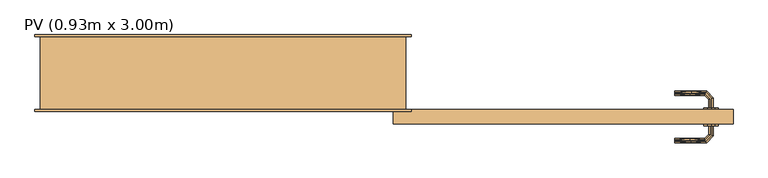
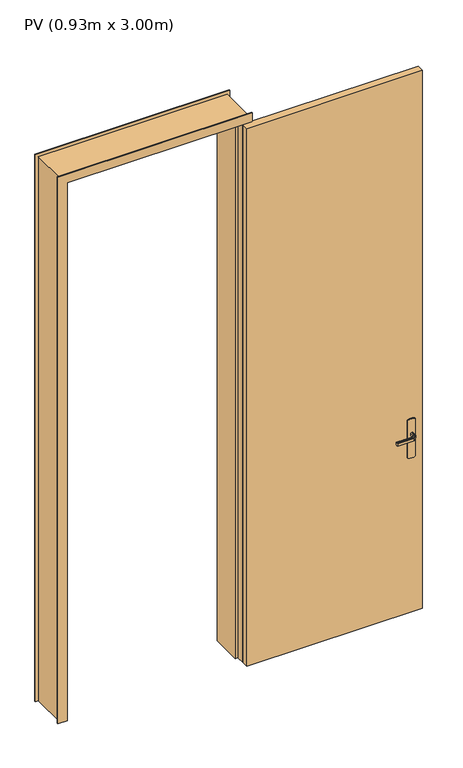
"""IFC4 building model written with IfcOpenShell, lengths in millimetres: door geometry, PV (0.93m x 3.00m)."""

import ifcopenshell
import ifcopenshell.guid

model = None  # the IFC model being written
_history = None  # IfcOwnerHistory: only IFC2X3 demands one
_inside = {}  # id of a spatial element -> (the spatial element, [elements in it])
_under = {}  # id of a project, library or spatial element -> (it, [spatial elements below it])
_declared = {}  # id of a project -> (the project, [libraries it declares])
_typed = {}  # id of a type object -> (the type object, [elements of that type])
_made_of = {}  # id of a material, layer set ... -> (it, [elements and type objects made of it])


def new_model(schema):
    """Start an empty IFC model of exactly this schema.

    Asked for "IFC4X3", IfcOpenShell would pick the latest addendum, in which some entities
    have other attributes; the version numbers below select the first issue.
    IFC2X3 requires an IfcOwnerHistory on every rooted entity: one is made here for all.
    """
    global model, _history
    if schema == "IFC4X3":
        model = ifcopenshell.file(schema_version=(4, 3, 0, 0))
    else:
        model = ifcopenshell.file(schema=schema)
    _inside.clear()
    _under.clear()
    _declared.clear()
    _typed.clear()
    _made_of.clear()
    _history = None
    if model.schema == "IFC2X3":
        org = make("IfcOrganization", Name="unknown")
        user = make(
            "IfcPersonAndOrganization",
            ThePerson=make("IfcPerson", FamilyName="unknown"),
            TheOrganization=org,
        )
        app = make(
            "IfcApplication",
            ApplicationDeveloper=org,
            Version="unknown",
            ApplicationFullName="unknown",
            ApplicationIdentifier="unknown",
        )
        _history = make(
            "IfcOwnerHistory",
            OwningUser=user,
            OwningApplication=app,
            ChangeAction="ADDED",
            CreationDate=0,
        )
    return model


def make(cls, **values):
    """One entity of the class cls with the attributes given. An attribute that is None is left unset."""
    return model.create_entity(
        cls, **{name: value for name, value in values.items() if value is not None}
    )


def rooted(cls, **values):
    """An entity with a GlobalId (a new one), such as an element, a storey or a relation."""
    return make(cls, GlobalId=ifcopenshell.guid.new(), OwnerHistory=_history, **values)


def si_unit(unit_type, name, prefix=None):
    """IfcSIUnit, for example si_unit("LENGTHUNIT", "METRE", prefix="MILLI")."""
    return make("IfcSIUnit", UnitType=unit_type, Prefix=prefix, Name=name)


def assignment(units):
    """IfcUnitAssignment: the units of a project."""
    return None if units is None else make("IfcUnitAssignment", Units=units)


def point(xyz):
    """IfcCartesianPoint."""
    return None if xyz is None else make("IfcCartesianPoint", Coordinates=xyz)


def direction(xyz):
    """IfcDirection."""
    return None if xyz is None else make("IfcDirection", DirectionRatios=xyz)


def frame(location, z_axis=None, x_axis=None):
    """IfcAxis2Placement3D, a coordinate frame: its origin and axes. An axis left out is left unset."""
    return make(
        "IfcAxis2Placement3D",
        Location=point(location),
        Axis=direction(z_axis),
        RefDirection=direction(x_axis),
    )


def origin():
    """The frame at (0, 0, 0) with its axes left unset."""
    return frame((0.0, 0.0, 0.0))


def origin_with_axes():
    """The frame at (0, 0, 0) with the z axis (0, 0, 1) and the x axis (1, 0, 0) written out."""
    return frame((0.0, 0.0, 0.0), z_axis=(0.0, 0.0, 1.0), x_axis=(1.0, 0.0, 0.0))


def place(relative_to, where):
    """IfcLocalPlacement: puts the frame where relative to a parent placement (None: the world)."""
    return make(
        "IfcLocalPlacement", PlacementRelTo=relative_to, RelativePlacement=where
    )


def context(
    kind, dimensions, precision=None, world=None, true_north=None, identifier=None
):
    """IfcGeometricRepresentationContext, for example the 3D "Model" context."""
    return make(
        "IfcGeometricRepresentationContext",
        ContextIdentifier=identifier,
        ContextType=kind,
        CoordinateSpaceDimension=dimensions,
        Precision=precision,
        WorldCoordinateSystem=world,
        TrueNorth=true_north,
    )


def project(units=None, contexts=None):
    """IfcProject with its units and contexts."""
    return rooted(
        "IfcProject",
        Name="project",
        RepresentationContexts=contexts,
        UnitsInContext=assignment(units),
    )


def spatial(cls, under=None, at=None, **own):
    """A site, building, storey or space (cls), placed at a placement, below another one or the project."""
    s = rooted(cls, ObjectPlacement=at, **own)
    if under is not None:
        _under.setdefault(under.id(), (under, []))[1].append(s)
    return s


def polyline(points):
    """IfcPolyline through the points."""
    return make("IfcPolyline", Points=[point(p) for p in points])


def outline(outer, holes=None, kind="AREA"):
    """IfcArbitraryClosedProfileDef: a profile drawn as a closed curve; with holes, ...WithVoids."""
    if holes is None:
        return make("IfcArbitraryClosedProfileDef", ProfileType=kind, OuterCurve=outer)
    return make(
        "IfcArbitraryProfileDefWithVoids",
        ProfileType=kind,
        OuterCurve=outer,
        InnerCurves=holes,
    )


def extrude(swept, where, along, depth):
    """IfcExtrudedAreaSolid: the profile swept, set in the frame where, extruded along a direction by depth."""
    return make(
        "IfcExtrudedAreaSolid",
        SweptArea=swept,
        Position=where,
        ExtrudedDirection=direction(along),
        Depth=depth,
    )


def faces_of(points, faces, orient=None, outer=None):
    """IfcFace entities. A face is a list of loops; a loop is a list of indices into points, from 0.

    orient and outer hold one flag for each loop. By default every Orientation is true, the
    first loop of a face is its IfcFaceOuterBound and the others are IfcFaceBound.
    """
    made = []
    for i, loops in enumerate(faces):
        bounds = []
        for j, loop in enumerate(loops):
            is_outer = j == 0 if outer is None else outer[i][j]
            bounds.append(
                make(
                    "IfcFaceOuterBound" if is_outer else "IfcFaceBound",
                    Bound=make("IfcPolyLoop", Polygon=[points[k] for k in loop]),
                    Orientation=True if orient is None else orient[i][j],
                )
            )
        made.append(make("IfcFace", Bounds=bounds))
    return made


def faceted_brep(points, faces, orient=None, outer=None, voids=None):
    """IfcFacetedBrep: a solid bounded by flat faces; with voids (closed shells), ...WithVoids."""
    shared = [point(p) for p in points]
    hull = make("IfcClosedShell", CfsFaces=faces_of(shared, faces, orient, outer))
    if voids is None:
        return make("IfcFacetedBrep", Outer=hull)
    return make(
        "IfcFacetedBrepWithVoids",
        Outer=hull,
        Voids=[
            make(cls, CfsFaces=faces_of(shared, fs, o, b)) for cls, fs, o, b in voids
        ],
    )


def shape(context_of_items, identifier, shape_type, items):
    """IfcShapeRepresentation: the items that make up one representation, for example the "Body"."""
    return make(
        "IfcShapeRepresentation",
        ContextOfItems=context_of_items,
        RepresentationIdentifier=identifier,
        RepresentationType=shape_type,
        Items=items,
    )


def source(mapping_origin, context_of_items, identifier, shape_type, items):
    """IfcRepresentationMap: a shape defined once, which mapped items show again and again."""
    return make(
        "IfcRepresentationMap",
        MappingOrigin=mapping_origin,
        MappedRepresentation=shape(context_of_items, identifier, shape_type, items),
    )


def transform(
    local_origin,
    x_axis=None,
    y_axis=None,
    z_axis=None,
    scale=None,
    scale2=None,
    scale3=None,
    uniform=True,
):
    """IfcCartesianTransformationOperator3D, or its non-uniform kind. x_axis, y_axis, z_axis: its Axis1, 2, 3."""
    if uniform:
        return make(
            "IfcCartesianTransformationOperator3D",
            Axis1=direction(x_axis),
            Axis2=direction(y_axis),
            LocalOrigin=point(local_origin),
            Scale=scale,
            Axis3=direction(z_axis),
        )
    return make(
        "IfcCartesianTransformationOperator3DnonUniform",
        Axis1=direction(x_axis),
        Axis2=direction(y_axis),
        LocalOrigin=point(local_origin),
        Scale=scale,
        Axis3=direction(z_axis),
        Scale2=scale2,
        Scale3=scale3,
    )


def mapped(mapping_source, mapping_target):
    """IfcMappedItem: shows the shape of a source again, moved by a transform."""
    return make(
        "IfcMappedItem", MappingSource=mapping_source, MappingTarget=mapping_target
    )


def made_of(thing, what):
    """Note that an element or type object is made of a material, layer set ...; save() writes the relation."""
    if what is not None:
        _made_of.setdefault(what.id(), (what, []))[1].append(thing)
    return thing


def element(
    cls,
    number,
    at=None,
    inside=None,
    cuts=None,
    type_object=None,
    material=None,
    context=None,
    identifier="Body",
    shape_type=None,
    held_by="IfcProductDefinitionShape",
    body=None,
    shapes=None,
    **own,
):
    """One element of the class cls, such as IfcWall. Its Tag is "e" and its number.

    at: its placement. inside: the storey or other place that contains it. cuts: it is an
    opening in that element (IfcRelVoidsElement). A single representation is given by context,
    identifier, shape_type and body (its items); several are given by shapes. held_by: the class
    of the entity that holds the representations. save() writes the other relations.
    """
    e = rooted(cls, Tag="e%d" % number, ObjectPlacement=at, **own)
    if body is not None:
        shapes = [shape(context, identifier, shape_type, body)]
    if shapes is not None:
        e.Representation = make(held_by, Representations=shapes)
    if inside is not None:
        _inside.setdefault(inside.id(), (inside, []))[1].append(e)
    if cuts is not None:
        rooted(
            "IfcRelVoidsElement", RelatingBuildingElement=cuts, RelatedOpeningElement=e
        )
    if type_object is not None:
        _typed.setdefault(type_object.id(), (type_object, []))[1].append(e)
    return made_of(e, material)


def aggregate(whole, parts):
    """IfcRelAggregates: a whole, such as a stair, and the parts it consists of."""
    return rooted("IfcRelAggregates", RelatingObject=whole, RelatedObjects=parts)


def save(model, path):
    """Write the relations noted so far, then the file.

    IfcRelAggregates (storeys below a building ...), IfcRelContainedInSpatialStructure (elements
    in a storey), IfcRelDefinesByType, IfcRelAssociatesMaterial and IfcRelDeclares: one each for
    every whole, place, type object, material and project.
    """
    for whole, parts in _under.values():
        aggregate(whole, parts)
    for where, things in _inside.values():
        rooted(
            "IfcRelContainedInSpatialStructure",
            RelatedElements=things,
            RelatingStructure=where,
        )
    for kind, things in _typed.values():
        rooted("IfcRelDefinesByType", RelatedObjects=things, RelatingType=kind)
    for what, things in _made_of.values():
        rooted("IfcRelAssociatesMaterial", RelatedObjects=things, RelatingMaterial=what)
    for by, libraries in _declared.values():
        rooted("IfcRelDeclares", RelatingContext=by, RelatedDefinitions=libraries)
    model.write(path)


def pv_0_93m_x_3_00m_b7839d82(model_context):
    return source(origin(), model_context, "Body", "SolidModel", [
        faceted_brep([(0.0, 200.0, 0.0), (-15.0, 200.0, 0.0), (-15.0, 205.0, 0.0), (50.0, 205.0, 0.0), (50.0, 40.0, 0.0), (35.0, 40.0, 0.0), (35.0, -5.0, 0.0), (-15.0, -5.0, 0.0), (-15.0, 0.0, 0.0), (0.0, 0.0, 0.0), (0.0, 200.0, 3045.0), (1000.0, 200.0, 3045.0), (1000.0, 200.0, 0.0), (1015.0, 200.0, 0.0), (1015.0, 200.0, 3060.0), (-15.0, 200.0, 3060.0), (-15.0, 205.0, 3060.0), (1015.0, 205.0, 3060.0), (1015.0, 205.0, 0.0), (950.0, 205.0, 0.0), (950.0, 205.0, 2995.0), (50.0, 205.0, 2995.0), (50.0, 40.0, 2995.0), (950.0, 40.0, 2995.0), (950.0, 40.0, 0.0), (965.0, 40.0, 0.0), (965.0, 40.0, 3010.0), (35.0, 40.0, 3010.0), (35.0, -5.0, 3010.0), (965.0, -5.0, 3010.0), (965.0, -5.0, 0.0), (1015.0, -5.0, 0.0), (1015.0, -5.0, 3060.0), (-15.0, -5.0, 3060.0), (-15.0, 0.0, 3060.0), (1015.0, 0.0, 3060.0), (1015.0, 0.0, 0.0), (1000.0, 0.0, 0.0), (1000.0, 0.0, 3045.0), (0.0, 0.0, 3045.0)], [[[0, 1, 2, 3, 4, 5, 6, 7, 8, 9]], [[1, 0, 10, 11, 12, 13, 14, 15]], [[2, 1, 15, 16]], [[3, 2, 16, 17, 18, 19, 20, 21]], [[3, 21, 22, 4]], [[5, 4, 22, 23, 24, 25, 26, 27]], [[5, 27, 28, 6]], [[7, 6, 28, 29, 30, 31, 32, 33]], [[8, 7, 33, 34]], [[9, 8, 34, 35, 36, 37, 38, 39]], [[0, 9, 39, 10]], [[11, 38, 37, 12]], [[12, 37, 36, 31, 30, 25, 24, 19, 18, 13]], [[17, 14, 13, 18]], [[23, 20, 19, 24]], [[29, 26, 25, 30]], [[35, 32, 31, 36]], [[10, 39, 38, 11]], [[16, 15, 14, 17]], [[22, 21, 20, 23]], [[28, 27, 26, 29]], [[34, 33, 32, 35]]]),
        extrude(outline(polyline([(1083.9960169, 1824.6472382), (1080.0, 1815.0), (870.0, 1815.0), (866.0039831, 1824.6472382), (864.6410162, 1835.0), (866.0039831, 1845.3527618), (870.0, 1855.0), (1080.0, 1855.0), (1083.9960169, 1845.3527618), (1085.3589838, 1835.0), (1083.9960169, 1824.6472382)])), frame((0.0, -45.0, 0.0), z_axis=(0.0, 1.0, 0.0), x_axis=(0.0, 0.0, 1.0)), (0.0, 0.0, 1.0), 5.0),
        extrude(outline(polyline([(1895.0, -40.0), (965.0, -40.0), (965.0, 0.0), (1895.0, 0.0), (1895.0, -40.0)])), origin_with_axes(), (0.0, 0.0, 1.0), 3010.0),
        extrude(outline(polyline([(1083.9960169, 1824.6472382), (1080.0, 1815.0), (870.0, 1815.0), (866.0039831, 1824.6472382), (864.6410162, 1835.0), (866.0039831, 1845.3527618), (870.0, 1855.0), (1080.0, 1855.0), (1083.9960169, 1845.3527618), (1085.3589838, 1835.0), (1083.9960169, 1824.6472382)])), frame((0.0, 0.0, 0.0), z_axis=(0.0, 1.0, 0.0), x_axis=(0.0, 0.0, 1.0)), (0.0, 0.0, 1.0), 5.0),
        faceted_brep([(1837.0252987, -45.0, 1007.7804408), (1841.0, -45.0, 1007.0), (1841.0, -45.0, 993.0), (1837.0252987, -45.0, 992.2195592), (1832.9747013, -45.0, 992.2195592), (1829.0, -45.0, 993.0), (1829.0, -45.0, 1007.0), (1832.9747013, -45.0, 1007.7804408), (1829.0, -67.4852045, 993.0), (1829.0, -67.4852045, 1007.0), (1832.9747013, -69.1315797, 1007.7804408), (1819.1610938, -82.9451872, 1007.7804408), (1820.8389062, -86.9957845, 1007.7804408), (1837.0252987, -70.8093921, 1007.7804408), (1841.0, -72.4557673, 1007.0), (1841.0, -72.4557673, 993.0), (1837.0252987, -70.8093921, 992.2195592), (1820.8389062, -86.9957845, 992.2195592), (1819.1610938, -82.9451872, 992.2195592), (1832.9747013, -69.1315797, 992.2195592), (1817.5147186, -78.9704859, 993.0), (1817.5147186, -78.9704859, 1007.0), (1822.4852814, -90.9704859, 1007.0), (1822.4852814, -90.9704859, 993.0), (1734.9542163, -78.9704859, 993.0), (1734.9542163, -82.9451872, 992.2195592), (1734.9542163, -86.9957845, 992.2195592), (1734.9542163, -90.9704859, 993.0), (1734.9542163, -90.9704859, 1007.0), (1734.9542163, -86.9957845, 1007.7804408), (1734.9542163, -82.9451872, 1007.7804408), (1734.9542163, -78.9704859, 1007.0), (1776.2344794, -78.9704859, 993.0), (1776.2344675, -78.9704859, 1007.0), (1777.0576551, -84.9704859, 1007.8786868), (1782.5547942, -90.9704859, 1007.0), (1782.5547957, -90.9704859, 993.0), (1777.0576549, -84.9704858, 992.1213132)], [[[0, 1, 2, 3, 4, 5, 6, 7]], [[6, 5, 8, 9]], [[9, 10, 7, 6]], [[10, 11, 12, 13, 0, 7]], [[13, 14, 1, 0]], [[2, 1, 14, 15]], [[15, 16, 3, 2]], [[16, 17, 18, 19, 4, 3]], [[19, 8, 5, 4]], [[9, 8, 20, 21]], [[21, 11, 10, 9]], [[12, 22, 14, 13]], [[15, 14, 22, 23]], [[23, 17, 16, 15]], [[18, 20, 8, 19]], [[24, 25, 26, 27, 28, 29, 30, 31]], [[21, 20, 32, 24, 31, 33]], [[33, 30, 34]], [[35, 34, 29]], [[21, 33, 11]], [[33, 31, 30]], [[28, 35, 29]], [[22, 12, 35]], [[35, 12, 34]], [[12, 11, 34]], [[11, 33, 34]], [[29, 34, 30]], [[22, 35, 28, 27, 36, 23]], [[36, 26, 37]], [[27, 26, 36]], [[17, 23, 36]], [[37, 32, 18]], [[20, 18, 32]], [[32, 25, 24]], [[26, 25, 37]], [[25, 32, 37]], [[17, 36, 37]], [[17, 37, 18]]]),
        faceted_brep([(1837.0252987, 5.0, 1007.7804408), (1832.9747013, 5.0, 1007.7804408), (1829.0, 5.0, 1007.0), (1829.0, 5.0, 993.0), (1832.9747013, 5.0, 992.2195592), (1837.0252987, 5.0, 992.2195592), (1841.0, 5.0, 993.0), (1841.0, 5.0, 1007.0), (1841.0, 32.6509507, 1007.0), (1837.0252987, 31.0045755, 1007.7804408), (1820.9764148, 47.0534593, 1007.7804408), (1819.2986025, 43.002862, 1007.7804408), (1832.9747013, 29.3267632, 1007.7804408), (1829.0, 27.680388, 1007.0), (1829.0, 27.680388, 993.0), (1832.9747013, 29.3267632, 992.2195592), (1819.2986025, 43.002862, 992.2195592), (1820.9764148, 47.0534593, 992.2195592), (1837.0252987, 31.0045755, 992.2195592), (1841.0, 32.6509507, 993.0), (1822.62279, 51.0281607, 1007.0), (1817.6522273, 39.0281607, 1007.0), (1817.6522273, 39.0281607, 993.0), (1822.62279, 51.0281607, 993.0), (1734.9813594, 51.0281607, 993.0), (1734.9813594, 47.0534593, 992.2195592), (1734.9813594, 43.002862, 992.2195592), (1734.9813594, 39.0281607, 993.0), (1734.9813594, 39.0281607, 1007.0), (1734.9813594, 43.002862, 1007.7804408), (1734.9813594, 47.0534593, 1007.7804408), (1734.9813594, 51.0281607, 1007.0), (1782.6923028, 51.0281607, 1007.0), (1777.1399809, 45.0281607, 1007.8786868), (1776.3167933, 39.0281607, 1007.0), (1776.3167933, 39.0281607, 993.0), (1777.1399811, 45.0281608, 992.1213132), (1782.6922998, 51.0281607, 993.0)], [[[0, 1, 2, 3, 4, 5, 6, 7]], [[8, 9, 0, 7]], [[9, 10, 11, 12, 1, 0]], [[12, 13, 2, 1]], [[3, 2, 13, 14]], [[14, 15, 4, 3]], [[15, 16, 17, 18, 5, 4]], [[18, 19, 6, 5]], [[7, 6, 19, 8]], [[20, 10, 9, 8]], [[11, 21, 13, 12]], [[14, 13, 21, 22]], [[22, 16, 15, 14]], [[17, 23, 19, 18]], [[8, 19, 23, 20]], [[24, 25, 26, 27, 28, 29, 30, 31]], [[32, 30, 33]], [[31, 30, 32]], [[10, 20, 32]], [[33, 34, 11]], [[21, 11, 34]], [[34, 29, 28]], [[30, 29, 33]], [[29, 34, 33]], [[10, 32, 33]], [[10, 33, 11]], [[22, 21, 34, 28, 27, 35]], [[35, 26, 36]], [[37, 36, 25]], [[22, 35, 16]], [[35, 27, 26]], [[24, 37, 25]], [[23, 17, 37]], [[37, 17, 36]], [[17, 16, 36]], [[16, 35, 36]], [[25, 36, 26]], [[20, 23, 37, 24, 31, 32]]]),
    ])


if __name__ == "__main__":
    model = new_model("IFC4")
    model_context = context("Model", 3, world=origin())
    ifc_project = project(units=[si_unit("LENGTHUNIT", "METRE", prefix="MILLI")], contexts=[model_context])
    site = spatial("IfcSite", under=ifc_project)
    building = spatial("IfcBuilding", under=site)
    placement = place(None, origin())
    pv_0_93m_x_3_00m_shape = pv_0_93m_x_3_00m_b7839d82(model_context)
    element("IfcDoor", 1, ObjectType="PV (0.93m x 3.00m)", at=placement, inside=building, context=model_context, shape_type="MappedRepresentation", body=[
        mapped(pv_0_93m_x_3_00m_shape, transform((0.0, 0.0, 0.0), x_axis=(1.0, 0.0, 0.0), y_axis=(0.0, 1.0, 0.0), z_axis=(0.0, 0.0, 1.0))),
    ])
    save(model, "model.ifc")
